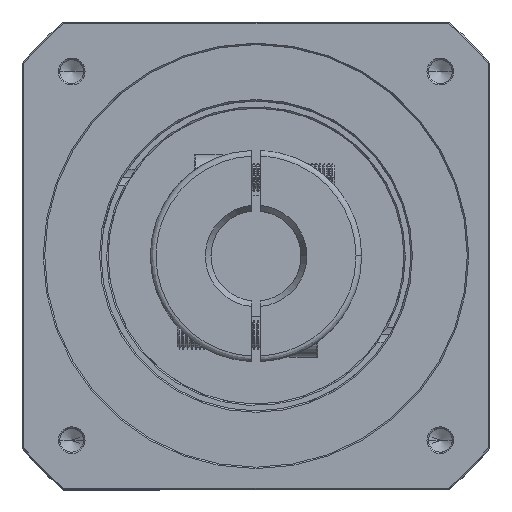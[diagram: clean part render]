
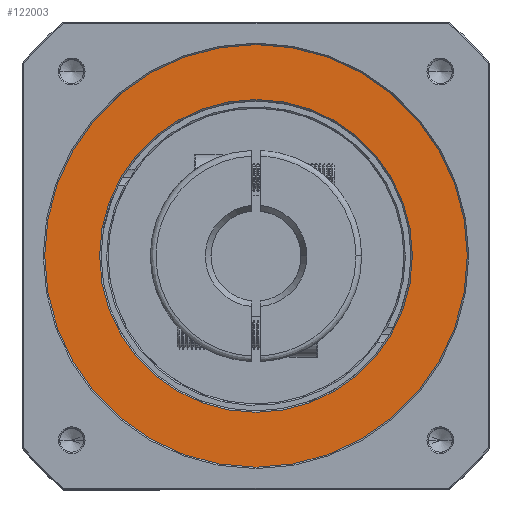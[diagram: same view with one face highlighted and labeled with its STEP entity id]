
A CAD part, top view. The second image highlights one B-rep face of the part: STEP entity #122003.
In plain terms, the highlighted planar face has unit normal (0, 0, 1).
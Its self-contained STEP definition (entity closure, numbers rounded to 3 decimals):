
#7320 = CARTESIAN_POINT ( 'NONE',  ( -119.318, 75.741, -7.231 ) ) ;
#7839 = DIRECTION ( 'NONE',  ( 0., 0., -1. ) ) ;
#8143 = PLANE ( 'NONE',  #55715 ) ;
#9067 = VERTEX_POINT ( 'NONE', #68027 ) ;
#13797 = EDGE_CURVE ( 'NONE', #9067, #60914, #31375, .T. ) ;
#14355 = AXIS2_PLACEMENT_3D ( 'NONE', #36458, #14573, #24871 ) ;
#14573 = DIRECTION ( 'NONE',  ( 0., 0., 1. ) ) ;
#16548 = CIRCLE ( 'NONE', #14355, 75. ) ;
#23080 = ORIENTED_EDGE ( 'NONE', *, *, #110682, .T. ) ;
#23674 = EDGE_LOOP ( 'NONE', ( #34843, #23080 ) ) ;
#24077 = CARTESIAN_POINT ( 'NONE',  ( -44.318, 75.741, -7.231 ) ) ;
#24587 = VERTEX_POINT ( 'NONE', #101096 ) ;
#24871 = DIRECTION ( 'NONE',  ( 1., 0., 0. ) ) ;
#24939 = DIRECTION ( 'NONE',  ( 1., 0., 0. ) ) ;
#31375 = CIRCLE ( 'NONE', #130058, 55.5 ) ;
#34176 = EDGE_LOOP ( 'NONE', ( #97694, #82839 ) ) ;
#34843 = ORIENTED_EDGE ( 'NONE', *, *, #75340, .T. ) ;
#36458 = CARTESIAN_POINT ( 'NONE',  ( -44.318, 75.741, -7.231 ) ) ;
#51879 = FACE_BOUND ( 'NONE', #34176, .T. ) ;
#53263 = VERTEX_POINT ( 'NONE', #7320 ) ;
#53586 = CARTESIAN_POINT ( 'NONE',  ( 11.182, 75.741, -7.231 ) ) ;
#55715 = AXIS2_PLACEMENT_3D ( 'NONE', #110625, #111480, #100885 ) ;
#60914 = VERTEX_POINT ( 'NONE', #53586 ) ;
#61780 = EDGE_CURVE ( 'NONE', #60914, #9067, #124863, .T. ) ;
#68027 = CARTESIAN_POINT ( 'NONE',  ( -99.818, 75.741, -7.231 ) ) ;
#68972 = CARTESIAN_POINT ( 'NONE',  ( -44.318, 75.741, -7.231 ) ) ;
#75340 = EDGE_CURVE ( 'NONE', #24587, #53263, #16548, .T. ) ;
#78317 = DIRECTION ( 'NONE',  ( 1., 0., 0. ) ) ;
#78750 = AXIS2_PLACEMENT_3D ( 'NONE', #68972, #7839, #78317 ) ;
#82839 = ORIENTED_EDGE ( 'NONE', *, *, #13797, .T. ) ;
#93173 = FACE_OUTER_BOUND ( 'NONE', #23674, .T. ) ;
#96257 = AXIS2_PLACEMENT_3D ( 'NONE', #24077, #115830, #24939 ) ;
#97694 = ORIENTED_EDGE ( 'NONE', *, *, #61780, .T. ) ;
#98785 = CARTESIAN_POINT ( 'NONE',  ( -44.318, 75.741, -7.231 ) ) ;
#99245 = DIRECTION ( 'NONE',  ( 1., 0., 0. ) ) ;
#99521 = CIRCLE ( 'NONE', #96257, 75. ) ;
#100885 = DIRECTION ( 'NONE',  ( 1., 0., 0. ) ) ;
#101096 = CARTESIAN_POINT ( 'NONE',  ( 30.682, 75.741, -7.231 ) ) ;
#109836 = DIRECTION ( 'NONE',  ( 0., 0., -1. ) ) ;
#110625 = CARTESIAN_POINT ( 'NONE',  ( -44.318, 75.741, -7.231 ) ) ;
#110682 = EDGE_CURVE ( 'NONE', #53263, #24587, #99521, .T. ) ;
#111480 = DIRECTION ( 'NONE',  ( 0., 0., 1. ) ) ;
#115830 = DIRECTION ( 'NONE',  ( 0., 0., 1. ) ) ;
#122003 = ADVANCED_FACE ( 'NONE', ( #51879, #93173 ), #8143, .T. ) ;
#124863 = CIRCLE ( 'NONE', #78750, 55.5 ) ;
#130058 = AXIS2_PLACEMENT_3D ( 'NONE', #98785, #109836, #99245 ) ;
